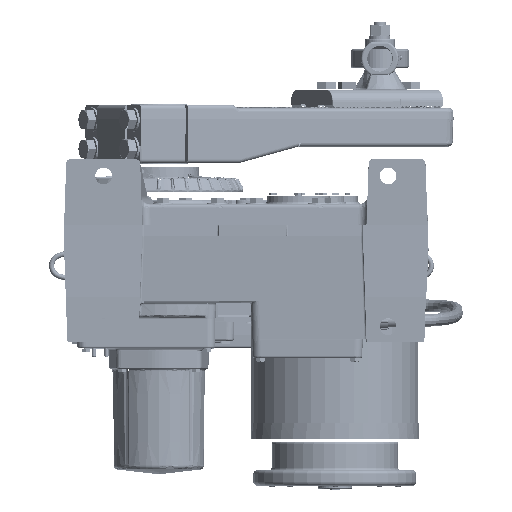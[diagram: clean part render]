
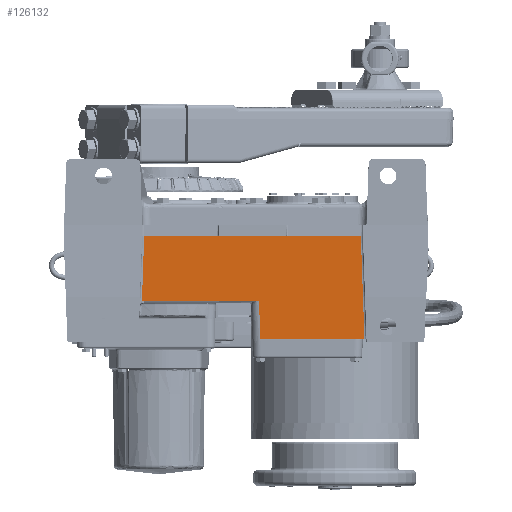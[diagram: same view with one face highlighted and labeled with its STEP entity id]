
A CAD part, front view. The second image highlights one B-rep face of the part: STEP entity #126132.
In plain terms, the highlighted planar face has unit normal (0, -0.999, -0.034).
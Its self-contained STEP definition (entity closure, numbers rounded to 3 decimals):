
#54 = CARTESIAN_POINT ( 'NONE',  ( 3.6, -9.05, -0.687 ) ) ;
#2654 = VECTOR ( 'NONE', #8038, 39.37 ) ;
#3379 =( BOUNDED_CURVE ( )  B_SPLINE_CURVE ( 3, ( #13421, #82907, #220936, #117554 ),
 .UNSPECIFIED., .F., .T. ) 
 B_SPLINE_CURVE_WITH_KNOTS ( ( 4, 4 ),
 ( 2.836, 3.142 ),
 .UNSPECIFIED. ) 
 CURVE ( )  GEOMETRIC_REPRESENTATION_ITEM ( )  RATIONAL_B_SPLINE_CURVE ( ( 1., 0.992, 0.992, 1. ) ) 
 REPRESENTATION_ITEM ( '' )  );
#8038 = DIRECTION ( 'NONE',  ( 1., 0., 0. ) ) ;
#13421 = CARTESIAN_POINT ( 'NONE',  ( -1.009, -8.921, -4.534 ) ) ;
#13499 = EDGE_CURVE ( 'NONE', #35057, #35269, #103200, .T. ) ;
#19056 = ORIENTED_EDGE ( 'NONE', *, *, #100899, .T. ) ;
#23851 = CARTESIAN_POINT ( 'NONE',  ( -7.626, -8.844, -6.826 ) ) ;
#24025 = CARTESIAN_POINT ( 'NONE',  ( 5.987, -8.921, -4.516 ) ) ;
#26526 = CARTESIAN_POINT ( 'NONE',  ( 12.05, -9.073, -0.001 ) ) ;
#27894 = CARTESIAN_POINT ( 'NONE',  ( -7.626, -8.921, -4.516 ) ) ;
#28424 = CARTESIAN_POINT ( 'NONE',  ( 6.067, -8.844, -6.826 ) ) ;
#31408 = VECTOR ( 'NONE', #83450, 39.37 ) ;
#33850 = CARTESIAN_POINT ( 'NONE',  ( -7.626, -9.05, -0.687 ) ) ;
#35057 = VERTEX_POINT ( 'NONE', #194652 ) ;
#35269 = VERTEX_POINT ( 'NONE', #64729 ) ;
#43853 = DIRECTION ( 'NONE',  ( -0.035, -0.034, 0.999 ) ) ;
#46720 = VERTEX_POINT ( 'NONE', #105484 ) ;
#48498 = LINE ( 'NONE', #23851, #2654 ) ;
#51160 = DIRECTION ( 'NONE',  ( 0., -0.034, 0.999 ) ) ;
#51427 = DIRECTION ( 'NONE',  ( 0.035, 0.034, -0.999 ) ) ;
#53464 = LINE ( 'NONE', #81629, #185885 ) ;
#55255 = CARTESIAN_POINT ( 'NONE',  ( -0.875, -9.05, -0.687 ) ) ;
#61323 = LINE ( 'NONE', #86190, #147751 ) ;
#62462 = VECTOR ( 'NONE', #183933, 39.37 ) ;
#64462 = CARTESIAN_POINT ( 'NONE',  ( -0.897, -8.921, -4.516 ) ) ;
#64729 = CARTESIAN_POINT ( 'NONE',  ( 3.474, -9.05, -0.687 ) ) ;
#70449 = CARTESIAN_POINT ( 'NONE',  ( -1.009, -8.921, -4.534 ) ) ;
#75705 = EDGE_CURVE ( 'NONE', #131090, #204857, #48498, .T. ) ;
#75901 = LINE ( 'NONE', #26526, #208203 ) ;
#77299 = LINE ( 'NONE', #152151, #31408 ) ;
#78662 = ORIENTED_EDGE ( 'NONE', *, *, #177579, .T. ) ;
#81629 = CARTESIAN_POINT ( 'NONE',  ( 12.199, -9.05, -0.687 ) ) ;
#82106 = EDGE_CURVE ( 'NONE', #209674, #111626, #3379, .T. ) ;
#82907 = CARTESIAN_POINT ( 'NONE',  ( -0.973, -8.921, -4.522 ) ) ;
#83450 = DIRECTION ( 'NONE',  ( 1., 0., 0. ) ) ;
#85787 = CARTESIAN_POINT ( 'NONE',  ( 12.288, -8.844, -6.826 ) ) ;
#86190 = CARTESIAN_POINT ( 'NONE',  ( 6.073, -8.838, -6.995 ) ) ;
#88845 = ORIENTED_EDGE ( 'NONE', *, *, #13499, .T. ) ;
#89035 = ORIENTED_EDGE ( 'NONE', *, *, #151436, .T. ) ;
#97849 = VECTOR ( 'NONE', #197105, 39.37 ) ;
#100899 = EDGE_CURVE ( 'NONE', #109683, #209674, #205620, .T. ) ;
#103200 = LINE ( 'NONE', #54, #97849 ) ;
#105484 = CARTESIAN_POINT ( 'NONE',  ( 12.074, -9.05, -0.687 ) ) ;
#109683 = VERTEX_POINT ( 'NONE', #55255 ) ;
#111626 = VERTEX_POINT ( 'NONE', #64462 ) ;
#117421 = CARTESIAN_POINT ( 'NONE',  ( -0.883, -9.042, -0.922 ) ) ;
#117554 = CARTESIAN_POINT ( 'NONE',  ( -0.897, -8.921, -4.516 ) ) ;
#119814 = PLANE ( 'NONE',  #139596 ) ;
#126132 = ADVANCED_FACE ( 'NONE', ( #223598 ), #119814, .F. ) ;
#127106 = ORIENTED_EDGE ( 'NONE', *, *, #75705, .T. ) ;
#131090 = VERTEX_POINT ( 'NONE', #28424 ) ;
#132830 = VECTOR ( 'NONE', #147891, 39.37 ) ;
#139596 = AXIS2_PLACEMENT_3D ( 'NONE', #33850, #154644, #51160 ) ;
#140323 = ORIENTED_EDGE ( 'NONE', *, *, #189727, .F. ) ;
#143159 = ORIENTED_EDGE ( 'NONE', *, *, #82106, .T. ) ;
#147183 = EDGE_CURVE ( 'NONE', #109683, #35269, #77299, .T. ) ;
#147751 = VECTOR ( 'NONE', #51427, 39.37 ) ;
#147891 = DIRECTION ( 'NONE',  ( 1., 0., 0. ) ) ;
#149131 = LINE ( 'NONE', #27894, #132830 ) ;
#151436 = EDGE_CURVE ( 'NONE', #111626, #190081, #149131, .T. ) ;
#152151 = CARTESIAN_POINT ( 'NONE',  ( 12.199, -9.05, -0.687 ) ) ;
#154047 = ORIENTED_EDGE ( 'NONE', *, *, #169882, .T. ) ;
#154644 = DIRECTION ( 'NONE',  ( 0., 0.999, 0.034 ) ) ;
#169882 = EDGE_CURVE ( 'NONE', #204857, #46720, #75901, .T. ) ;
#177579 = EDGE_CURVE ( 'NONE', #190081, #131090, #61323, .T. ) ;
#183933 = DIRECTION ( 'NONE',  ( -0.035, 0.034, -0.999 ) ) ;
#184265 = DIRECTION ( 'NONE',  ( 1., 0., 0. ) ) ;
#185885 = VECTOR ( 'NONE', #184265, 39.37 ) ;
#189727 = EDGE_CURVE ( 'NONE', #35057, #46720, #53464, .T. ) ;
#190081 = VERTEX_POINT ( 'NONE', #24025 ) ;
#194652 = CARTESIAN_POINT ( 'NONE',  ( 7.725, -9.05, -0.687 ) ) ;
#197105 = DIRECTION ( 'NONE',  ( -1., 0., 0. ) ) ;
#204857 = VERTEX_POINT ( 'NONE', #85787 ) ;
#205620 = LINE ( 'NONE', #117421, #62462 ) ;
#208203 = VECTOR ( 'NONE', #43853, 39.37 ) ;
#209674 = VERTEX_POINT ( 'NONE', #70449 ) ;
#215544 = EDGE_LOOP ( 'NONE', ( #78662, #127106, #154047, #140323, #88845, #223719, #19056, #143159, #89035 ) ) ;
#220936 = CARTESIAN_POINT ( 'NONE',  ( -0.935, -8.921, -4.516 ) ) ;
#223598 = FACE_OUTER_BOUND ( 'NONE', #215544, .T. ) ;
#223719 = ORIENTED_EDGE ( 'NONE', *, *, #147183, .F. ) ;
